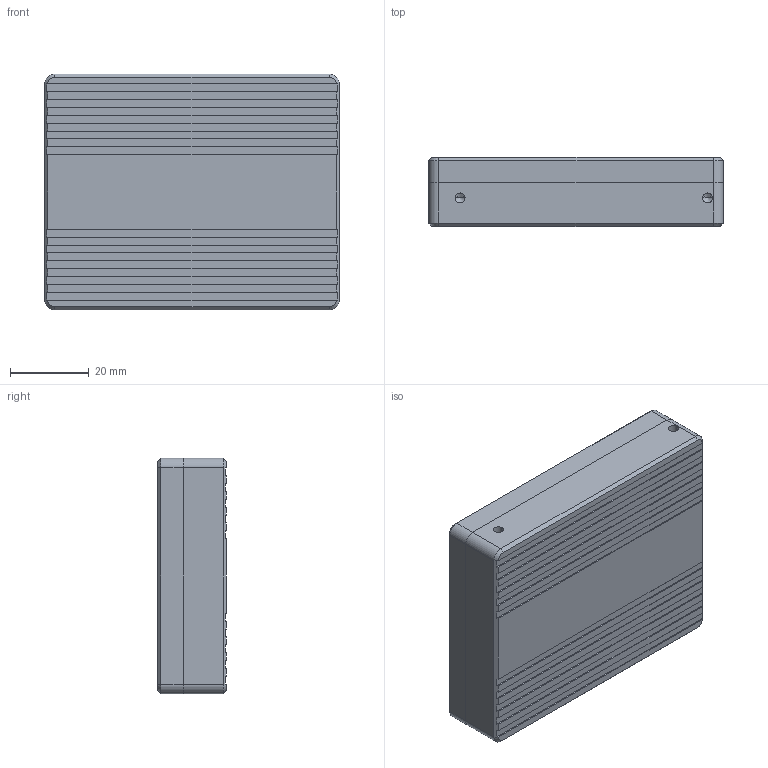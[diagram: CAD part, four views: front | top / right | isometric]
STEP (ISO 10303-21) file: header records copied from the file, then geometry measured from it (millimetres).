
FILE_DESCRIPTION(/* description */ (''),/* implementation_level */ '2;1');
FILE_NAME(/* name */ 'mini驱动器_asm1.stp',/* time_stamp */ '2023-08-22T17:45:12+08:00',/* author */ (''),/* organization */ (''),/* preprocessor_version */ 'ST-DEVELOPER v16.7',/* originating_system */ 'SIEMENS PLM Software NX 12.0',/* authorisation */ '');
FILE_SCHEMA (('AP203_CONFIGURATION_CONTROLLED_3D_DESIGN_OF_MECHANICAL_PARTS_AND_ASSEMBLIES_MIM_LF { 1 0 10303 403 2 1 2}'));
Length unit declared in the file: millimetre
Products named in the file (1): 29014754B71Aru0t
Bounding box: 75 x 17.5 x 60 mm (x, y, z)
Volume: 17142.4 mm3; surface area: 26367.2 mm2
Topology: 2 solids, 2 shells, 210 faces, 573 edges, 367 vertices
Faces by surface type: plane 125, cylinder 67, cone 18
Entity records: 6637 total; most frequent: CARTESIAN_POINT 1141, DIRECTION 1129, ORIENTED_EDGE 1126, EDGE_CURVE 563, LINE 419, VECTOR 419, VERTEX_POINT 367, AXIS2_PLACEMENT_3D 355
